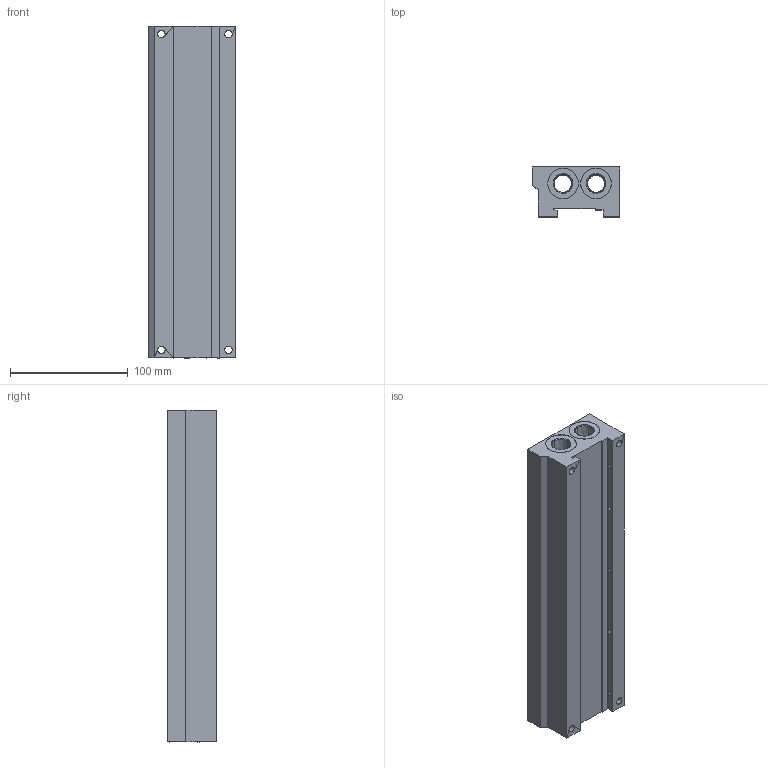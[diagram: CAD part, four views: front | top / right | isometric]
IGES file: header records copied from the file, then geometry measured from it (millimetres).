
Start section: --------------------------------------------------- ROBERT BOSCH GmbH, D-70442 Stuttgart Model-Name:      R414000105 Drawing-Name:    &dwg_name Format:          DIN &format Alle Rechte bei ROBERT BOSCH GmbH, auch fuer den Fall von Schutzrechtsanmeldungen. Jede Verfuegungs- befugnis, wie Kopier- und Weitergabe, bei uns. THIS DRAWING IS THE EXCLUSIVE PROPERTY OF ROBERT BOSCH GMBH. WITHOUT THEIR CONS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
Global section: file name: r414000105.igs; native system: Pro/ENGINEER by Parametric Technology Corporation; preprocessor: 2011490; author: vol1hc; organization: Unknown; date: 20150423.173131; units: millimetre
Bounding box: 74 x 42 x 282 mm (x, y, z)
Surface area: 118237.3 mm2 (no closed solid volume)
Topology: 0 solids, 0 shells, 184 faces, 888 edges, 888 vertices
Faces by surface type: revolution 140, bspline 44
